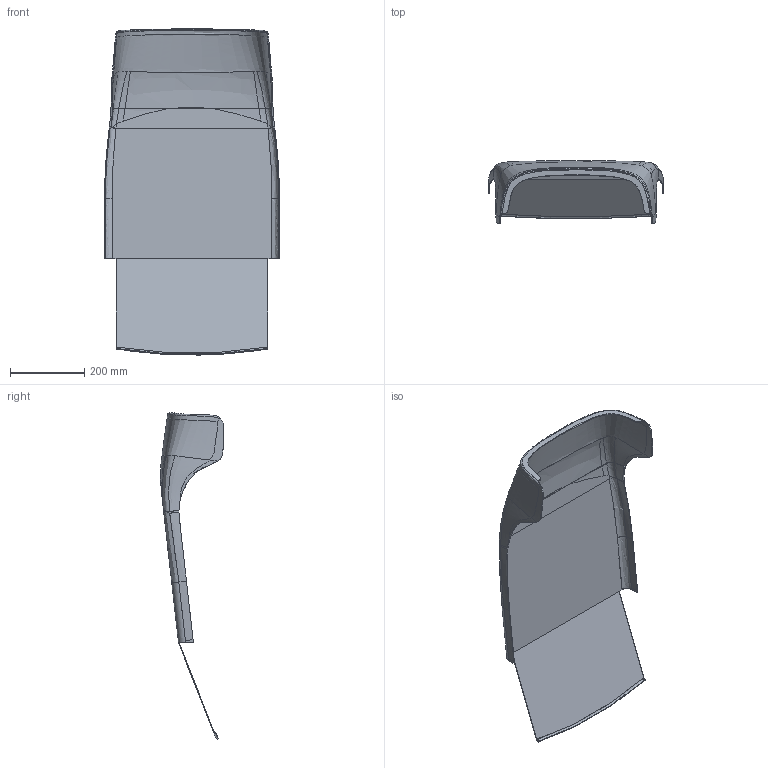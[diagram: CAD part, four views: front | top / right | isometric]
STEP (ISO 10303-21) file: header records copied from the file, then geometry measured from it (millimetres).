
FILE_DESCRIPTION(/* description */ ('Unknown'),/* implementation_level */ '2;1');
FILE_NAME(/* name */ 'nosnik oparcia 2.2_29.09.2017_stp_od_tza',/* time_stamp */ '2017-09-29T12:14:23+02:00',/* author */ ('Unknown'),/* organization */ ('Unknown'),/* preprocessor_version */ 'ST-DEVELOPER v16.7',/* originating_system */ 'DEX',/* authorisation */ $);
FILE_SCHEMA (('AUTOMOTIVE_DESIGN {1 0 10303 214 3 1 1}'));
Length unit declared in the file: millimetre
Products named in the file (1): nosnik oparcia 2.2_29.09.2017_stp_od_tza
Bounding box: 470.79 x 169.64 x 877.8 mm (x, y, z)
Volume: 954643.2 mm3; surface area: 937189.9 mm2
Topology: 1 solids, 1 shells, 156 faces, 416 edges, 262 vertices
Faces by surface type: bspline 104, plane 44, cylinder 8
Entity records: 24784 total; most frequent: CARTESIAN_POINT 20720, ORIENTED_EDGE 832, EDGE_CURVE 416, B_SPLINE_CURVE_WITH_KNOTS 304, VERTEX_POINT 262, DIRECTION 241, EDGE_LOOP 156, FACE_BOUND 156
